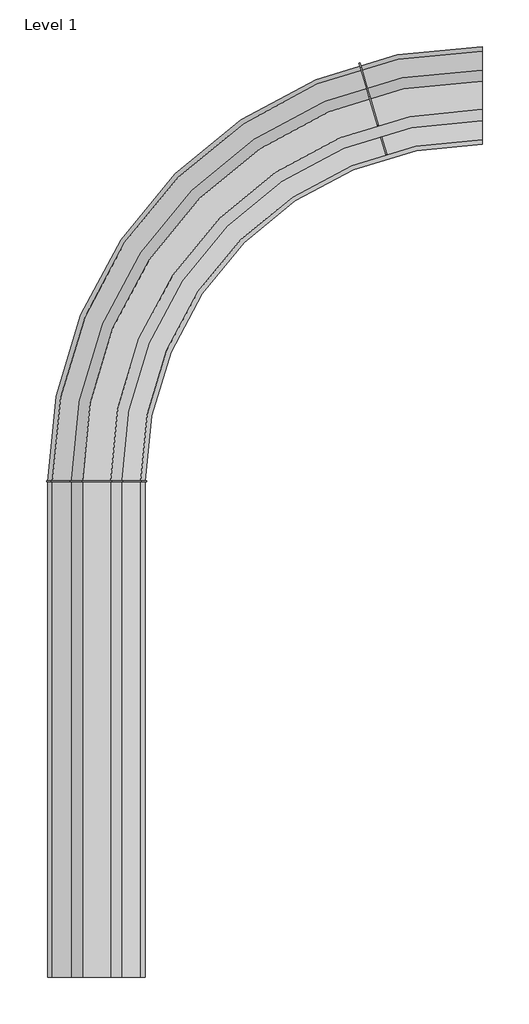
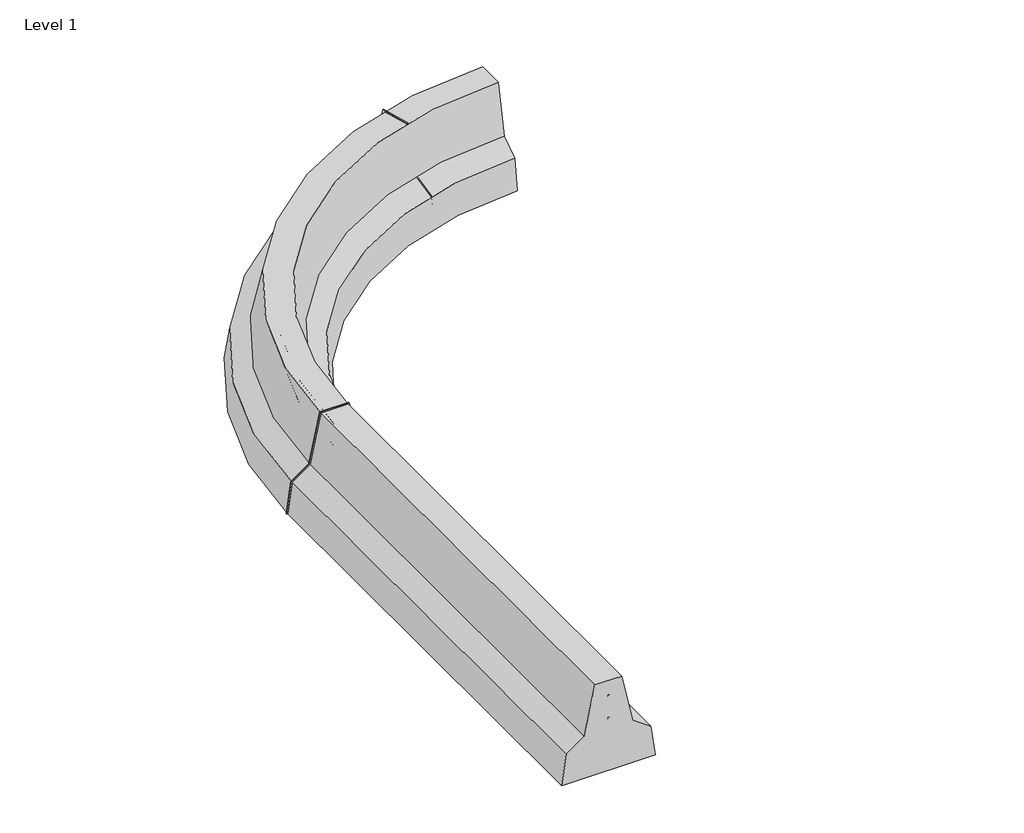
# One storey: 1 railing.
"""IFC4 building model written with IfcOpenShell, lengths in millimetres."""

from ifc_helpers import new_model, si_unit, point, frame, origin, place, context, project, spatial, polyline, circle_curve, ellipse_curve, trimmed, outline, extrude, element, save
from ifc_brep_helpers import plane_surface, cylinder_surface, revolved_surface, advanced_brep

model = new_model("IFC4")

# Units and contexts
model_context = context("Model", 3, world=origin())
ifc_project = project(units=[si_unit("LENGTHUNIT", "METRE", prefix="MILLI")], contexts=[model_context])

# Site, building, storey
site = spatial("IfcSite", under=ifc_project)
building = spatial("IfcBuilding", under=site)
storey = spatial("IfcBuildingStorey", under=building, Name="Level 1", Elevation=0.0)

# Railing
placement = place(None, origin())
element("IfcRailing", 1, ObjectType="BHDEG0-0a-H1W1", at=placement, inside=storey, context=model_context, shape_type="SolidModel", body=[
    advanced_brep(
    [(-85.0, 0.0, 600.0), (-153.0, 0.0, 280.0), (-267.0, 0.0, 200.0), (-295.0, 0.0, 0.0), (295.0, 0.0, 0.0), (267.0, 0.0, 200.0), (153.0, 0.0, 280.0), (85.0, 0.0, 600.0), (-85.0, 3000.0, 600.0), (-153.0, 3000.0, 280.0), (-267.0, 3000.0, 200.0), (-295.0, 3000.0, 0.0), (295.0, 3000.0, 0.0), (267.0, 3000.0, 200.0), (153.0, 3000.0, 280.0), (85.0, 3000.0, 600.0), (2333.4523779, 5486.4523779, 280.0), (2333.4523779, 5418.4523779, 600.0), (2333.4523779, 5600.4523779, 200.0), (2333.4523779, 5628.4523779, 0.0), (2333.4523779, 5038.4523779, 0.0), (2333.4523779, 5066.4523779, 200.0), (2333.4523779, 5180.4523779, 280.0), (2333.4523779, 5248.4523779, 600.0)],
    [
        (0, 1),
        (1, 2),
        (2, 3),
        (3, 4),
        (4, 5),
        (5, 6),
        (6, 7),
        (7, 0),
        (0, 8),
        (8, 9),
        (9, 1),
        (9, 10),
        (10, 2),
        (10, 11),
        (11, 3),
        (11, 12),
        (12, 4),
        (12, 13),
        (13, 5),
        (13, 14),
        (14, 6),
        (14, 15),
        (15, 7),
        (15, 8),
        (16, 9, circle_curve(frame((2333.4523779, 3000.0, 280.0), z_axis=(0.0, 0.0, 1.0), x_axis=(-1.0, 0.0, 0.0)), 2486.4523779)),
        (8, 17, circle_curve(frame((2333.4523779, 3000.0, 600.0), z_axis=(0.0, 0.0, -1.0), x_axis=(-1.0, 0.0, 0.0)), 2418.4523779)),
        (17, 16),
        (18, 10, circle_curve(frame((2333.4523779, 3000.0, 200.0), z_axis=(0.0, 0.0, 1.0), x_axis=(-1.0, 0.0, 0.0)), 2600.4523779)),
        (16, 18),
        (19, 11, circle_curve(frame((2333.4523779, 3000.0, 0.0), z_axis=(0.0, 0.0, 1.0), x_axis=(-1.0, 0.0, 0.0)), 2628.4523779)),
        (18, 19),
        (20, 12, circle_curve(frame((2333.4523779, 3000.0, 0.0), z_axis=(0.0, 0.0, 1.0), x_axis=(-1.0, 0.0, 0.0)), 2038.4523779)),
        (19, 20),
        (21, 13, circle_curve(frame((2333.4523779, 3000.0, 200.0), z_axis=(0.0, 0.0, 1.0), x_axis=(-1.0, 0.0, 0.0)), 2066.4523779)),
        (20, 21),
        (22, 14, circle_curve(frame((2333.4523779, 3000.0, 280.0), z_axis=(0.0, 0.0, 1.0), x_axis=(-1.0, 0.0, 0.0)), 2180.4523779)),
        (21, 22),
        (23, 15, circle_curve(frame((2333.4523779, 3000.0, 600.0), z_axis=(0.0, 0.0, 1.0), x_axis=(-1.0, 0.0, 0.0)), 2248.4523779)),
        (22, 23),
        (23, 17),
    ],
    [
        plane_surface(frame((0.0, 0.0, 600.0), z_axis=(0.0, -1.0, 0.0), x_axis=(0.0, 0.0, 1.0))),
        plane_surface(frame((-85.0, 0.0, 600.0), z_axis=(-0.9781588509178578, 0.0, 0.20785875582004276), x_axis=(0.0, 1.0, 0.0))),
        plane_surface(frame((-153.0, 0.0, 280.0), z_axis=(-0.5744257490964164, 0.0, 0.8185566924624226), x_axis=(0.0, 1.0, 0.0))),
        plane_surface(frame((-267.0, 0.0, 200.0), z_axis=(-0.9903417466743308, 0.0, 0.1386478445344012), x_axis=(0.0, 1.0, 0.0))),
        plane_surface(frame((-295.0, 0.0, 0.0), z_axis=(0.0, 0.0, -1.0), x_axis=(0.0, 1.0, 0.0))),
        plane_surface(frame((295.0, 0.0, 0.0), z_axis=(0.9903417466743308, 0.0, 0.1386478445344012), x_axis=(0.0, 1.0, 0.0))),
        plane_surface(frame((267.0, 0.0, 200.0), z_axis=(0.5744257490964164, 0.0, 0.8185566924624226), x_axis=(0.0, 1.0, 0.0))),
        plane_surface(frame((153.0, 0.0, 280.0), z_axis=(0.9781588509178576, 0.0, 0.2078587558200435), x_axis=(0.0, 1.0, 0.0))),
        plane_surface(frame((85.0, 0.0, 600.0), z_axis=(0.0, 0.0, 1.0), x_axis=(0.0, 1.0, 0.0))),
        revolved_surface(polyline([(-85.0, 3000.0, 600.0), (-153.0, 3000.0, 280.0)]), (2333.4523779, 3000.0, 600.0), (0.0, 0.0, -1.0)),
        revolved_surface(polyline([(-153.0, 3000.0, 280.0), (-267.0, 3000.0, 200.0)]), (2333.4523779, 3000.0, 600.0), (0.0, 0.0, -1.0)),
        revolved_surface(polyline([(-267.0, 3000.0, 200.0), (-295.0, 3000.0, 0.0)]), (2333.4523779, 3000.0, 600.0), (0.0, 0.0, -1.0)),
        plane_surface(frame((2333.4523779, 3000.0, 0.0), z_axis=(0.0, 0.0, -1.0), x_axis=(-1.0, 0.0, 0.0))),
        revolved_surface(polyline([(295.0, 3000.0, 0.0), (267.0, 3000.0, 200.0)]), (2333.4523779, 3000.0, 600.0), (0.0, 0.0, -1.0)),
        revolved_surface(polyline([(267.0, 3000.0, 200.0), (153.0, 3000.0, 280.0)]), (2333.4523779, 3000.0, 600.0), (0.0, 0.0, -1.0)),
        revolved_surface(polyline([(153.0, 3000.0, 280.0), (85.0, 3000.0, 600.0)]), (2333.4523779, 3000.0, 600.0), (0.0, 0.0, -1.0)),
        plane_surface(frame((2333.4523779, 3000.0, 600.0), z_axis=(0.0, 0.0, 1.0), x_axis=(-1.0, 0.0, 0.0))),
        plane_surface(frame((2333.4523779, 5333.4523779, 600.0), z_axis=(1.0, 0.0, 0.0), x_axis=(0.0, 1.0, 0.0))),
    ],
    [
        (0, [[1, 2, 3, 4, 5, 6, 7, 8]]),
        (1, [[-1, 9, 10, 11]]),
        (2, [[-2, -11, 12, 13]]),
        (3, [[-3, -13, 14, 15]]),
        (4, [[-4, -15, 16, 17]]),
        (5, [[-5, -17, 18, 19]]),
        (6, [[-6, -19, 20, 21]]),
        (7, [[-7, -21, 22, 23]]),
        (8, [[-8, -23, 24, -9]]),
        (9, [[25, -10, 26, 27]]),
        (10, [[28, -12, -25, 29]]),
        (11, [[30, -14, -28, 31]]),
        (12, [[32, -16, -30, 33]]),
        (13, [[34, -18, -32, 35]]),
        (14, [[36, -20, -34, 37]]),
        (15, [[38, -22, -36, 39]]),
        (16, [[-26, -24, -38, 40]]),
        (17, [[-40, -39, -37, -35, -33, -31, -29, -27]]),
    ],
),
    advanced_brep(
    [(-6.0, 0.0, 500.0), (6.0, 0.0, 500.0), (-6.0, 3000.0, 500.0), (6.0, 3000.0, 500.0), (2333.4523779, 5327.4523779, 500.0), (2333.4523779, 5339.4523779, 500.0)],
    [
        (0, 1, circle_curve(frame((0.0, 0.0, 500.0), z_axis=(0.0, -1.0, 0.0), x_axis=(1.0, 0.0, 0.0)), 6.0)),
        (1, 0, circle_curve(frame((0.0, 0.0, 500.0), z_axis=(0.0, -1.0, 0.0), x_axis=(1.0, 0.0, 0.0)), 6.0)),
        (0, 2),
        (2, 3, circle_curve(frame((0.0, 3000.0, 500.0), z_axis=(0.0, -1.0, 0.0), x_axis=(1.0, 0.0, 0.0)), 6.0)),
        (3, 1),
        (3, 2, circle_curve(frame((0.0, 3000.0, 500.0), z_axis=(0.0, -1.0, 0.0), x_axis=(1.0, 0.0, 0.0)), 6.0)),
        (4, 3, circle_curve(frame((2333.4523779, 3000.0, 500.0), z_axis=(0.0, 0.0, 1.0), x_axis=(-1.0, 0.0, 0.0)), 2327.4523779)),
        (2, 5, circle_curve(frame((2333.4523779, 3000.0, 500.0), z_axis=(0.0, 0.0, -1.0), x_axis=(-1.0, 0.0, 0.0)), 2339.4523779)),
        (5, 4, circle_curve(frame((2333.4523779, 5333.4523779, 500.0), z_axis=(-1.0, 0.0, 0.0), x_axis=(0.0, -1.0, 0.0)), 6.0)),
        (4, 5, circle_curve(frame((2333.4523779, 5333.4523779, 500.0), z_axis=(-1.0, 0.0, 0.0), x_axis=(0.0, -1.0, 0.0)), 6.0)),
    ],
    [
        plane_surface(frame((0.0, 0.0, 500.0), z_axis=(0.0, -1.0, 0.0), x_axis=(0.0, 0.0, 1.0))),
        cylinder_surface(frame((0.0, 0.0, 500.0), z_axis=(0.0, -1.0, 0.0), x_axis=(1.0, 0.0, 0.0)), 6.0),
        revolved_surface(trimmed(ellipse_curve(frame((0.0, 3000.0, 500.0), z_axis=(0.0, -1.0, 0.0), x_axis=(1.0, 0.0, 0.0)), 6.0, 6.0), [point((-6.0, 3000.0, 500.0))], [point((6.0, 3000.0, 500.0))], True, "CARTESIAN"), (2333.4523779, 3000.0, 500.0), (0.0, 0.0, -1.0)),
        revolved_surface(trimmed(ellipse_curve(frame((0.0, 3000.0, 500.0), z_axis=(0.0, -1.0, 0.0), x_axis=(1.0, 0.0, 0.0)), 6.0, 6.0), [point((6.0, 3000.0, 500.0))], [point((-6.0, 3000.0, 500.0))], True, "CARTESIAN"), (2333.4523779, 3000.0, 500.0), (0.0, 0.0, -1.0)),
        plane_surface(frame((2333.4523779, 5333.4523779, 500.0), z_axis=(1.0, 0.0, 0.0), x_axis=(0.0, 1.0, 0.0))),
    ],
    [
        (0, [[1, 2]]),
        (1, [[-1, 3, 4, 5]]),
        (1, [[-2, -5, 6, -3]]),
        (2, [[7, -4, 8, 9]]),
        (3, [[-8, -6, -7, 10]]),
        (4, [[-10, -9]]),
    ],
),
    advanced_brep(
    [(-6.0, 0.0, 350.0), (6.0, 0.0, 350.0), (-6.0, 3000.0, 350.0), (6.0, 3000.0, 350.0), (2333.4523779, 5327.4523779, 350.0), (2333.4523779, 5339.4523779, 350.0)],
    [
        (0, 1, circle_curve(frame((0.0, 0.0, 350.0), z_axis=(0.0, -1.0, 0.0), x_axis=(1.0, 0.0, 0.0)), 6.0)),
        (1, 0, circle_curve(frame((0.0, 0.0, 350.0), z_axis=(0.0, -1.0, 0.0), x_axis=(1.0, 0.0, 0.0)), 6.0)),
        (0, 2),
        (2, 3, circle_curve(frame((0.0, 3000.0, 350.0), z_axis=(0.0, -1.0, 0.0), x_axis=(1.0, 0.0, 0.0)), 6.0)),
        (3, 1),
        (3, 2, circle_curve(frame((0.0, 3000.0, 350.0), z_axis=(0.0, -1.0, 0.0), x_axis=(1.0, 0.0, 0.0)), 6.0)),
        (4, 3, circle_curve(frame((2333.4523779, 3000.0, 350.0), z_axis=(0.0, 0.0, 1.0), x_axis=(-1.0, 0.0, 0.0)), 2327.4523779)),
        (2, 5, circle_curve(frame((2333.4523779, 3000.0, 350.0), z_axis=(0.0, 0.0, -1.0), x_axis=(-1.0, 0.0, 0.0)), 2339.4523779)),
        (5, 4, circle_curve(frame((2333.4523779, 5333.4523779, 350.0), z_axis=(-1.0, 0.0, 0.0), x_axis=(0.0, -1.0, 0.0)), 6.0)),
        (4, 5, circle_curve(frame((2333.4523779, 5333.4523779, 350.0), z_axis=(-1.0, 0.0, 0.0), x_axis=(0.0, -1.0, 0.0)), 6.0)),
    ],
    [
        plane_surface(frame((0.0, 0.0, 350.0), z_axis=(0.0, -1.0, 0.0), x_axis=(0.0, 0.0, 1.0))),
        cylinder_surface(frame((0.0, 0.0, 350.0), z_axis=(0.0, -1.0, 0.0), x_axis=(1.0, 0.0, 0.0)), 6.0),
        revolved_surface(trimmed(ellipse_curve(frame((0.0, 3000.0, 350.0), z_axis=(0.0, -1.0, 0.0), x_axis=(1.0, 0.0, 0.0)), 6.0, 6.0), [point((-6.0, 3000.0, 350.0))], [point((6.0, 3000.0, 350.0))], True, "CARTESIAN"), (2333.4523779, 3000.0, 350.0), (0.0, 0.0, -1.0)),
        revolved_surface(trimmed(ellipse_curve(frame((0.0, 3000.0, 350.0), z_axis=(0.0, -1.0, 0.0), x_axis=(1.0, 0.0, 0.0)), 6.0, 6.0), [point((6.0, 3000.0, 350.0))], [point((-6.0, 3000.0, 350.0))], True, "CARTESIAN"), (2333.4523779, 3000.0, 350.0), (0.0, 0.0, -1.0)),
        plane_surface(frame((2333.4523779, 5333.4523779, 350.0), z_axis=(1.0, 0.0, 0.0), x_axis=(0.0, 1.0, 0.0))),
    ],
    [
        (0, [[1, 2]]),
        (1, [[-1, 3, 4, 5]]),
        (1, [[-2, -5, 6, -3]]),
        (2, [[7, -4, 8, 9]]),
        (3, [[-8, -6, -7, 10]]),
        (4, [[-10, -9]]),
    ],
),
    extrude(outline(polyline([(-7.4268567, 0.0), (-36.0242671, -204.2672175), (-150.2770066, -284.4445786), (-218.9262837, -607.5), (-401.0737163, -607.5), (-469.7229933, -284.4445786), (-583.9757329, -204.2672175), (-612.5731433, 0.0), (-597.4268566, 0.0), (-570.0242671, -195.7327825), (-456.2770066, -275.5554214), (-388.9262837, -592.5), (-231.0737162, -592.5), (-163.7229933, -275.5554214), (-49.9757329, -195.7327825), (-22.5731433, 0.0), (-7.4268567, 0.0)])), frame((1761.8579408, 4941.042394, 0.0), z_axis=(0.9596201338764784, 0.2812991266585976, 0.0), x_axis=(0.2812991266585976, -0.9596201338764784, 0.0)), (0.0, 0.0, 1.0), 5.0),
    extrude(outline(polyline([(0.0, 302.5731433), (204.2672175, 273.9757329), (284.4445786, 159.7229933), (607.5, 91.0737163), (607.5, -91.0737163), (284.4445786, -159.7229933), (204.2672175, -273.9757329), (0.0, -302.5731433), (0.0, -287.4268567), (195.7327825, -260.0242671), (275.5554214, -146.2770067), (592.5, -78.9262837), (592.5, 78.9262837), (275.5554214, 146.2770067), (195.7327825, 260.0242671), (0.0, 287.4268567), (0.0, 302.5731433)])), frame((0.0, 2997.5, 0.0), z_axis=(0.0, 1.0, 0.0), x_axis=(0.0, 0.0, 1.0)), (0.0, 0.0, 1.0), 5.0),
])

save(model, "model.ifc")
